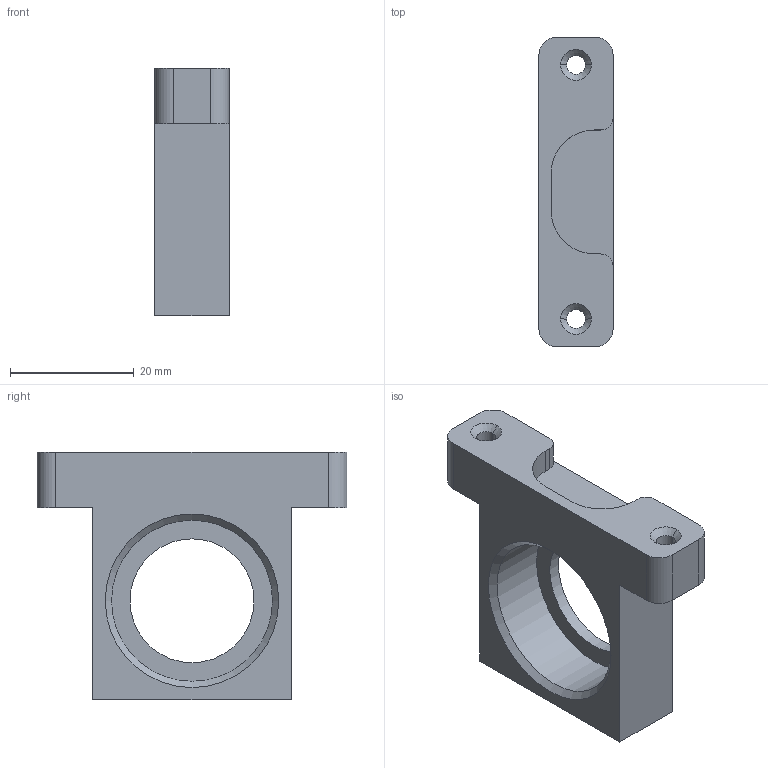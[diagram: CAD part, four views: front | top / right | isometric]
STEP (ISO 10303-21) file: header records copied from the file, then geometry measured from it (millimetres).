
FILE_DESCRIPTION( ('This file contains a STEP AP42 implementation' ,'as created by ZW3D STEP Interface translator.') ,'2;1' );
FILE_NAME( 'zkj-盓殤.stp' ,'23 9 3.214434', (''), ('ZWCAD Software Co.'), 'Version 1.0', 'ZW3D to STEP translator', '' );
FILE_SCHEMA(('AUTOMOTIVE_DESIGN { 1 0 10303 214 1 1 1 1 }'));
Length unit declared in the file: millimetre
Products named in the file (2): 0; zkj-盓殤
Bounding box: 12 x 50 x 40 mm (x, y, z)
Volume: 10393.5 mm3; surface area: 5431.8 mm2
Topology: 1 solids, 1 shells, 34 faces, 88 edges, 57 vertices
Faces by surface type: plane 15, cylinder 14, cone 5
Full cylindrical faces by diameter (mm): 20 x1, 26 x1
Entity records: 1121 total; most frequent: DIRECTION 191, CARTESIAN_POINT 180, ORIENTED_EDGE 176, EDGE_CURVE 88, AXIS2_PLACEMENT_3D 68, VERTEX_POINT 57, VECTOR 55, LINE 55
